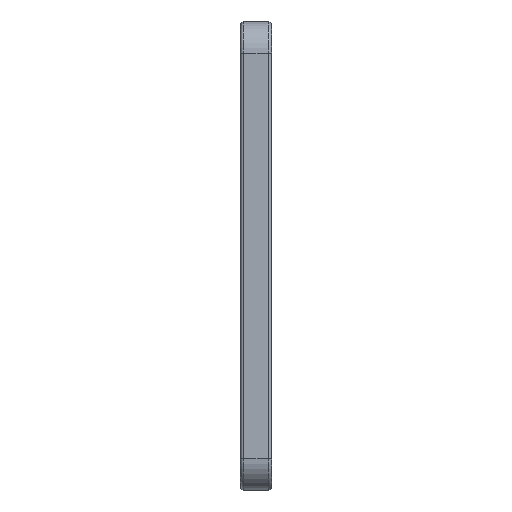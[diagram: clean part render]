
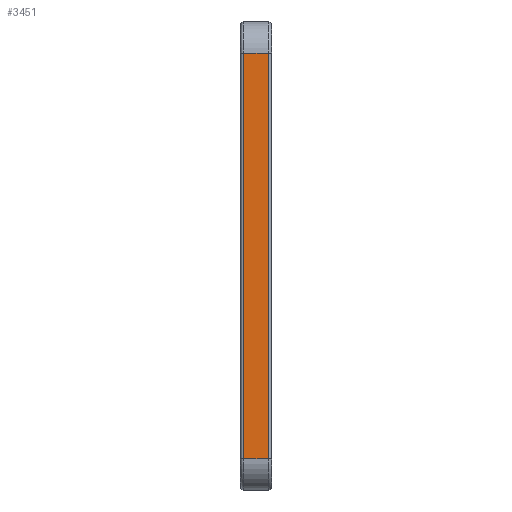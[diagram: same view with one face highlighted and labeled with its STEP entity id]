
A CAD part, left-side view. The second image highlights one B-rep face of the part: STEP entity #3451.
In plain terms, the highlighted planar face has unit normal (-1, 0, 0).
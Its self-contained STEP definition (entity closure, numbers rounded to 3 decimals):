
#1174=DIRECTION('',(0.,0.,1.));
#1175=VECTOR('',#1174,26.);
#1176=CARTESIAN_POINT('',(-17.5,1.8,-13.));
#1177=LINE('',#1176,#1175);
#1178=DIRECTION('',(0.,-1.,0.));
#1179=VECTOR('',#1178,1.6);
#1180=CARTESIAN_POINT('',(-17.5,1.8,13.));
#1181=LINE('',#1180,#1179);
#1182=DIRECTION('',(0.,0.,-1.));
#1183=VECTOR('',#1182,26.);
#1184=CARTESIAN_POINT('',(-17.5,0.2,13.));
#1185=LINE('',#1184,#1183);
#1186=DIRECTION('',(0.,-1.,0.));
#1187=VECTOR('',#1186,1.6);
#1188=CARTESIAN_POINT('',(-17.5,1.8,-13.));
#1189=LINE('',#1188,#1187);
#1484=CARTESIAN_POINT('',(-17.5,1.8,13.));
#1485=VERTEX_POINT('',#1484);
#1488=CARTESIAN_POINT('',(-17.5,1.8,-13.));
#1489=VERTEX_POINT('',#1488);
#1620=CARTESIAN_POINT('',(-17.5,0.2,-13.));
#1621=VERTEX_POINT('',#1620);
#1624=CARTESIAN_POINT('',(-17.5,0.2,13.));
#1625=VERTEX_POINT('',#1624);
#3439=CARTESIAN_POINT('',(-17.5,0.,-15.));
#3440=DIRECTION('',(-1.,0.,0.));
#3441=DIRECTION('',(0.,0.,1.));
#3442=AXIS2_PLACEMENT_3D('',#3439,#3440,#3441);
#3443=PLANE('',#3442);
#3444=ORIENTED_EDGE('',*,*,#2526,.T.);
#3446=ORIENTED_EDGE('',*,*,#3445,.T.);
#3447=ORIENTED_EDGE('',*,*,#3152,.T.);
#3448=ORIENTED_EDGE('',*,*,#3432,.F.);
#3449=EDGE_LOOP('',(#3444,#3446,#3447,#3448));
#3450=FACE_OUTER_BOUND('',#3449,.F.);
#3451=ADVANCED_FACE('',(#3450),#3443,.T.);
#2526=EDGE_CURVE('',#1489,#1485,#1177,.T.);
#3152=EDGE_CURVE('',#1625,#1621,#1185,.T.);
#3432=EDGE_CURVE('',#1489,#1621,#1189,.T.);
#3445=EDGE_CURVE('',#1485,#1625,#1181,.T.);
